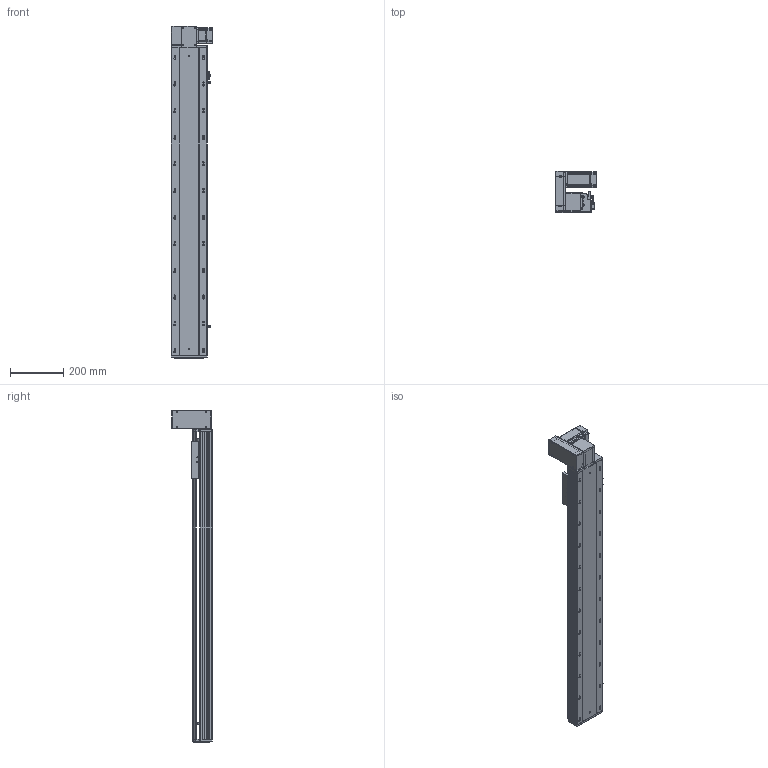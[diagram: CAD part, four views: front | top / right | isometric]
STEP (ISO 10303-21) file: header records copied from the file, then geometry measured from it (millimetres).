
FILE_DESCRIPTION (( 'STEP AP203' ), '1' );
FILE_NAME ('RY140-T-300-UL.SLDASM_900.step', '2021-03-01T07:43:41', ( '盈信电脑' ), ( '东莞市道滘镇水果街19号' ), 'SwSTEP 2.0', 'SolidWorks 2012', '' );
FILE_SCHEMA (( 'CONFIG_CONTROL_DESIGN' ));
Products named in the file (18): RY140-T-300-UL.SLDASM_900; RY140-T翋肮謫裔啣; RY120-T主同步轮轴承压盖; RY140-T萇儂欶; RY120-T蹟翐M4; 滅袉蝶18-10; 侂狟400W侜督萇儂; RY140-T萇儂假蚾啣; 15; RY140-T翋肮祭謫盓傅釱; RY120-T肮祭湍揤踡輸1; 覜茼ん672; RY120外置感应片(140共用）; RY120-T肮祭湍揤踡輸2; RY140綴裔啣; RY140-T-300-DL倰第奻裔啣_900; RY140-T-300-DL倰第菁釱_900; RY140肮祭謫臏賑輸
Assembly tree (23 placements, depth 3):
  RY140-T-300-UL.SLDASM_900
    RY140-T-300-DL倰第菁釱_900
    RY140肮祭謫臏賑輸
    RY140-T-300-DL倰第奻裔啣_900
    RY140綴裔啣
    覜茼ん672  x3
    RY120外置感应片(140共用）
    RY120-T肮祭湍揤踡輸2
    RY120-T肮祭湍揤踡輸1
    RY140-T翋肮祭謫盓傅釱
    RY140-T萇儂假蚾啣
    侂狟400W侜督萇儂
      15
    RY120-T主同步轮轴承压盖
    RY120-T蹟翐M4  x4
    RY140-T萇儂欶
    滅袉蝶18-10  x2
    RY140-T翋肮謫裔啣
Bounding box: 157 x 152.5 x 1246 mm (x, y, z)
Volume: 3749758.1 mm3; surface area: 1427788.4 mm2
Topology: 22 solids, 22 shells, 2739 faces, 7569 edges, 4866 vertices
Faces by surface type: plane 1385, cylinder 1040, cone 214, bspline 100
Entity records: 87575 total; most frequent: CARTESIAN_POINT 21579, ORIENTED_EDGE 13634, DIRECTION 12857, EDGE_CURVE 6817, VERTEX_POINT 4465, VECTOR 4289, LINE 4289, AXIS2_PLACEMENT_3D 4284
